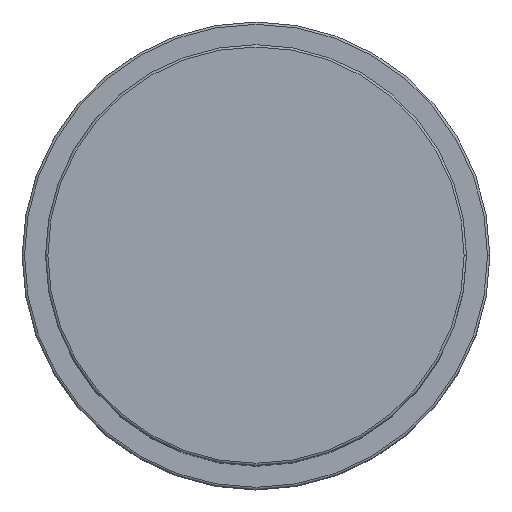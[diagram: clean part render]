
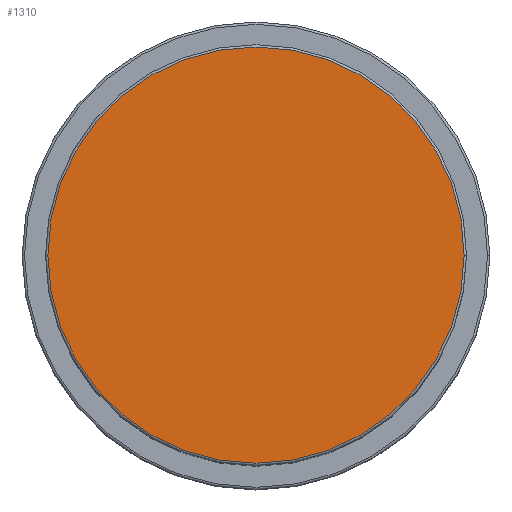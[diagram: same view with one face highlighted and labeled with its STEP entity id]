
A CAD part, top view. The second image highlights one B-rep face of the part: STEP entity #1310.
In plain terms, the highlighted planar face has unit normal (0, 0, 1).
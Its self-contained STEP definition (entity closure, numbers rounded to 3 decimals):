
#211 = CARTESIAN_POINT ( 'NONE',  ( 0., 0., 107. ) ) ;
#267 = DIRECTION ( 'NONE',  ( 1., 0., 0. ) ) ;
#316 = EDGE_LOOP ( 'NONE', ( #1761, #1013 ) ) ;
#348 = PLANE ( 'NONE',  #1652 ) ;
#409 = CARTESIAN_POINT ( 'NONE',  ( -44.5, 0., 107. ) ) ;
#418 = CARTESIAN_POINT ( 'NONE',  ( 44.5, 0., 107. ) ) ;
#454 = AXIS2_PLACEMENT_3D ( 'NONE', #1253, #1568, #1003 ) ;
#526 = CIRCLE ( 'NONE', #1351, 44.5 ) ;
#652 = CARTESIAN_POINT ( 'NONE',  ( 0., 0., 107. ) ) ;
#1003 = DIRECTION ( 'NONE',  ( 1., 0., 0. ) ) ;
#1013 = ORIENTED_EDGE ( 'NONE', *, *, #1416, .T. ) ;
#1058 = VERTEX_POINT ( 'NONE', #418 ) ;
#1253 = CARTESIAN_POINT ( 'NONE',  ( 0., 0., 107. ) ) ;
#1266 = EDGE_CURVE ( 'NONE', #1058, #1587, #1376, .T. ) ;
#1296 = DIRECTION ( 'NONE',  ( 0., 0., 1. ) ) ;
#1310 = ADVANCED_FACE ( 'NONE', ( #1564 ), #348, .T. ) ;
#1351 = AXIS2_PLACEMENT_3D ( 'NONE', #652, #1757, #267 ) ;
#1376 = CIRCLE ( 'NONE', #454, 44.5 ) ;
#1416 = EDGE_CURVE ( 'NONE', #1587, #1058, #526, .T. ) ;
#1564 = FACE_OUTER_BOUND ( 'NONE', #316, .T. ) ;
#1568 = DIRECTION ( 'NONE',  ( 0., 0., 1. ) ) ;
#1587 = VERTEX_POINT ( 'NONE', #409 ) ;
#1652 = AXIS2_PLACEMENT_3D ( 'NONE', #211, #1296, #1664 ) ;
#1664 = DIRECTION ( 'NONE',  ( 1., 0., 0. ) ) ;
#1757 = DIRECTION ( 'NONE',  ( 0., 0., 1. ) ) ;
#1761 = ORIENTED_EDGE ( 'NONE', *, *, #1266, .T. ) ;
